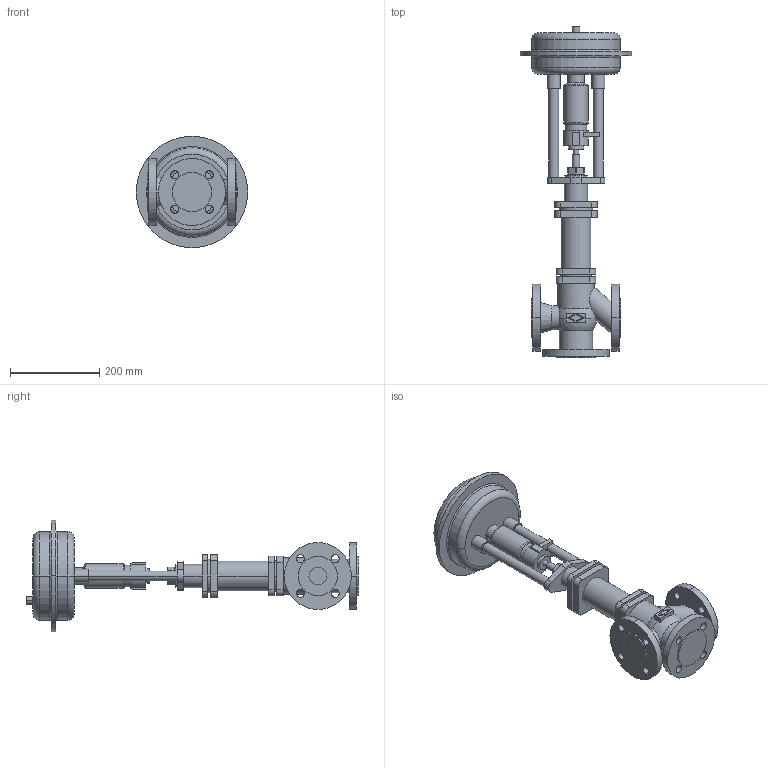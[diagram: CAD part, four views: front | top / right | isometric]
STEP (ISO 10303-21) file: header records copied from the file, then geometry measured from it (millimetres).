
FILE_DESCRIPTION(('OneSpaceDesigner STEP Export'),'2;1');
FILE_NAME('c000000722.stp','2006-09-20T11:14:27',(''),(''),'OneSpace Designer STEP processor for AP214 (Solid Model)','OneSpace Designer 13.20A 18-Aug-2005 (C) CoCreate Software GmbH','');
FILE_SCHEMA(('AUTOMOTIVE_DESIGN { 1 0 10303 214 1 1 1 1 }'));
Length unit declared in the file: millimetre
Products named in the file (2): 1; 2
Bounding box: 250 x 744.5 x 250 mm (x, y, z)
Volume: 6575195.1 mm3; surface area: 502221.3 mm2
Topology: 2 solids, 2 shells, 243 faces, 590 edges, 385 vertices
Faces by surface type: cylinder 116, plane 101, torus 16, cone 6, sphere 4
Entity records: 6664 total; most frequent: CARTESIAN_POINT 1295, ORIENTED_EDGE 1180, DIRECTION 1016, EDGE_CURVE 590, VERTEX_POINT 385, AXIS2_PLACEMENT_3D 367, EDGE_LOOP 301, VECTOR 282
